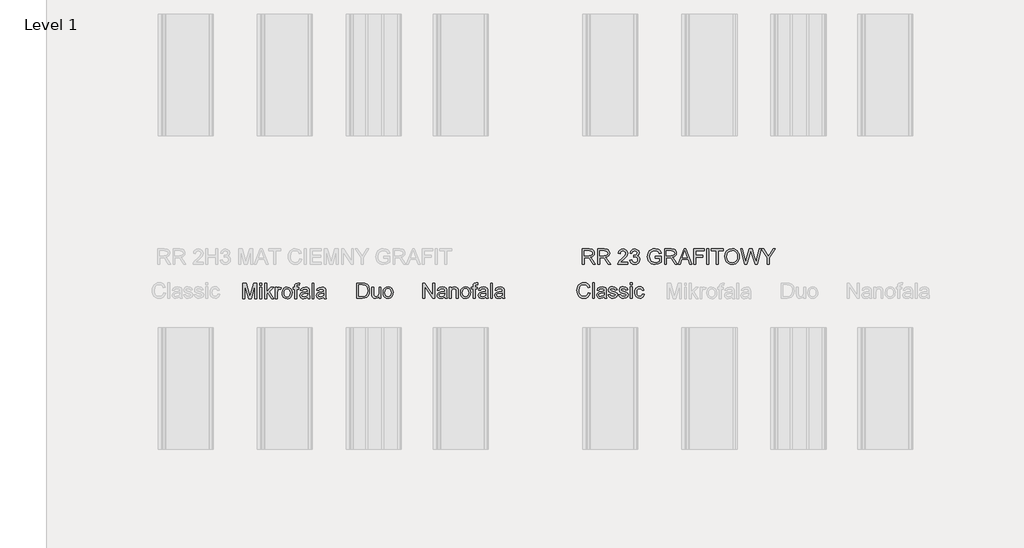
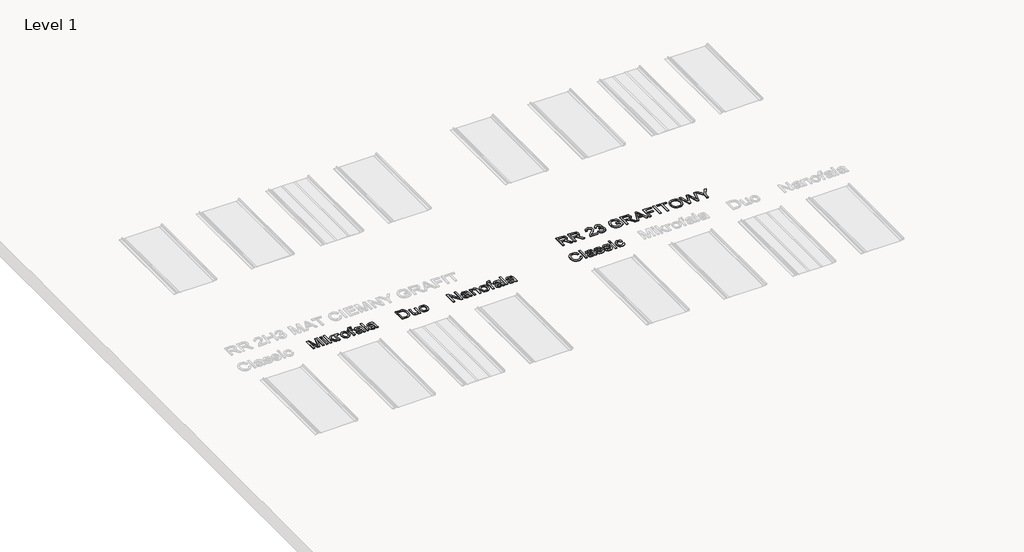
# One storey, part 12 of 22: 5 proxies.
"""IFC4 building model written with IfcOpenShell, lengths in millimetres."""

from ifc_helpers import new_model, si_unit, frame, origin, place, context, project, spatial, polyline, outline, extrude, element, save

model = new_model("IFC4")

# Units and contexts
model_context = context("Model", 3, world=origin())
ifc_project = project(units=[si_unit("LENGTHUNIT", "METRE", prefix="MILLI")], contexts=[model_context])

# Site, building, storey
site = spatial("IfcSite", under=ifc_project)
building = spatial("IfcBuilding", under=site)
storey = spatial("IfcBuildingStorey", under=building, Name="Level 1", Elevation=0.0)

# Proxies
placement = place(None, origin())
element("IfcBuildingElementProxy", 1, Name="150", ObjectType="150", at=placement, inside=storey, context=model_context, shape_type="SweptSolid", body=[
    extrude(outline(polyline([(-7895.6654959, -1975.281387), (-7895.6654959, -1824.5969218), (-7863.3654568, -1824.5969218), (-7832.4633692, -1930.8044538), (-7826.2093753, -1952.9877381), (-7819.4771347, -1928.9650438), (-7789.1636583, -1824.5969218), (-7756.7532546, -1824.5969218), (-7756.7532546, -1975.281387), (-7775.5888127, -1975.281387), (-7775.5888127, -1843.4324799), (-7813.44387, -1975.281387), (-7838.9380923, -1975.281387), (-7876.8299378, -1843.4324799), (-7876.8299378, -1975.281387), (-7895.6654959, -1975.281387)])), frame((0.0, 0.0, 600.0), z_axis=(0.0, 0.0, 1.0), x_axis=(1.0, 0.0, 0.0)), (0.0, 0.0, 1.0), 10.0),
    extrude(outline(polyline([(-7726.1454726, -1843.4324799), (-7726.1454726, -1824.5969218), (-7707.3099144, -1824.5969218), (-7707.3099144, -1843.4324799), (-7726.1454726, -1843.4324799)])), frame((0.0, 0.0, 600.0), z_axis=(0.0, 0.0, 1.0), x_axis=(1.0, 0.0, 0.0)), (0.0, 0.0, 1.0), 10.0),
    extrude(outline(polyline([(-7726.1454726, -1975.281387), (-7726.1454726, -1864.6224829), (-7707.3099144, -1864.6224829), (-7707.3099144, -1975.281387), (-7726.1454726, -1975.281387)])), frame((0.0, 0.0, 600.0), z_axis=(0.0, 0.0, 1.0), x_axis=(1.0, 0.0, 0.0)), (0.0, 0.0, 1.0), 10.0),
    extrude(outline(polyline([(-7679.0565772, -1975.281387), (-7679.0565772, -1824.5969218), (-7660.221019, -1824.5969218), (-7660.221019, -1905.5677489), (-7617.988166, -1864.6224829), (-7591.9421207, -1864.6224829), (-7634.7267968, -1906.0827837), (-7589.587676, -1975.281387), (-7611.5870193, -1975.281387), (-7648.228066, -1919.1793827), (-7660.221019, -1930.841242), (-7660.221019, -1975.281387), (-7679.0565772, -1975.281387)])), frame((0.0, 0.0, 600.0), z_axis=(0.0, 0.0, 1.0), x_axis=(1.0, 0.0, 0.0)), (0.0, 0.0, 1.0), 10.0),
    extrude(outline(polyline([(-7573.1065626, -1975.281387), (-7573.1065626, -1864.6224829), (-7556.6254492, -1864.6224829), (-7556.6254492, -1880.9932316), (-7544.9268017, -1865.9100698), (-7533.1545779, -1862.2680381), (-7514.2454433, -1868.0805736), (-7520.5362255, -1884.9663572), (-7533.7799773, -1881.1035962), (-7544.4301611, -1884.8192044), (-7551.2175839, -1895.1199003), (-7554.2710044, -1917.1192436), (-7554.2710044, -1975.281387), (-7573.1065626, -1975.281387)])), frame((0.0, 0.0, 600.0), z_axis=(0.0, 0.0, 1.0), x_axis=(1.0, 0.0, 0.0)), (0.0, 0.0, 1.0), 10.0),
    extrude(outline(polyline([(-7507.182109, -1919.9519349), (-7503.1078159, -1893.2712932), (-7490.8849367, -1874.5185085), (-7475.7833808, -1865.3306557), (-7457.7019807, -1862.2680381), (-7437.9145279, -1865.9974418), (-7422.1093977, -1877.185653), (-7411.748921, -1894.9497548), (-7408.2954287, -1918.4068306), (-7409.822139, -1937.4355268), (-7414.4022699, -1951.9208803), (-7421.902464, -1962.7688007), (-7432.1893643, -1970.8851972), (-7444.4076451, -1975.9481731), (-7457.7019807, -1977.6358318), (-7477.7285568, -1973.9202236), (-7493.5152929, -1962.7733992), (-7503.765405, -1944.6368168), (-7507.182109, -1919.9519349)]), holes=[polyline([(-7488.3465509, -1919.9151467), (-7486.1668501, -1936.9618787), (-7479.6277476, -1949.1065831), (-7469.7869042, -1956.376851), (-7457.7019807, -1958.8002736), (-7445.6722394, -1956.3630554), (-7435.8497902, -1949.0514008), (-7429.3106877, -1936.745748), (-7427.1309869, -1919.3265355), (-7429.3244833, -1902.7764443), (-7435.9049725, -1890.7972868), (-7445.7412173, -1883.5270189), (-7457.7019807, -1881.1035962), (-7469.7869042, -1883.5178218), (-7479.6277476, -1890.7604986), (-7486.1668501, -1902.8776118), (-7488.3465509, -1919.9151467)])]), frame((0.0, 0.0, 600.0), z_axis=(0.0, 0.0, 1.0), x_axis=(1.0, 0.0, 0.0)), (0.0, 0.0, 1.0), 10.0),
    extrude(outline(polyline([(-7382.3965363, -1975.281387), (-7382.3965363, -1883.458041), (-7398.8776497, -1883.458041), (-7398.8776497, -1864.6224829), (-7382.3965363, -1864.6224829), (-7382.3965363, -1853.4756584), (-7380.4099735, -1837.7670972), (-7370.7714652, -1826.5466964), (-7351.7887543, -1822.242477), (-7334.6086651, -1824.3026162), (-7337.3677801, -1841.960952), (-7348.2202989, -1841.0780352), (-7360.0844933, -1844.2050321), (-7363.5609781, -1855.8668914), (-7363.5609781, -1864.6224829), (-7342.3709752, -1864.6224829), (-7342.3709752, -1883.458041), (-7363.5609781, -1883.458041), (-7363.5609781, -1975.281387), (-7382.3965363, -1975.281387)])), frame((0.0, 0.0, 600.0), z_axis=(0.0, 0.0, 1.0), x_axis=(1.0, 0.0, 0.0)), (0.0, 0.0, 1.0), 10.0),
    extrude(outline(polyline([(-7255.2565187, -1961.1547184), (-7273.5218598, -1973.9202236), (-7293.7001872, -1977.6358318), (-7309.4409381, -1975.4009487), (-7321.0522136, -1968.6962993), (-7328.2121169, -1958.5151651), (-7330.5987514, -1945.8508274), (-7326.9935078, -1930.9516066), (-7317.5205464, -1920.1358759), (-7304.3319769, -1913.9554584), (-7288.0348045, -1911.1227671), (-7255.3668833, -1904.6480439), (-7255.2565187, -1900.4541892), (-7256.5533028, -1892.0480856), (-7260.4436549, -1886.5482498), (-7269.1440641, -1882.4647596), (-7281.2657758, -1881.1035962), (-7300.3220632, -1884.7272339), (-7309.4087484, -1897.5847096), (-7328.2443066, -1895.2302649), (-7320.0957204, -1876.8361651), (-7303.6881834, -1866.0572226), (-7278.8377546, -1862.2680381), (-7256.0106768, -1865.6157643), (-7243.1164129, -1874.0218678), (-7237.3406656, -1886.8057672), (-7236.4209606, -1903.2868806), (-7236.4209606, -1926.7209636), (-7235.4644674, -1959.4440671), (-7231.7120711, -1975.281387), (-7250.5476292, -1975.281387), (-7255.2565187, -1961.1547184)]), holes=[polyline([(-7255.2565187, -1923.4836021), (-7285.6435715, -1929.2593494), (-7301.8487734, -1932.31277), (-7309.1880192, -1937.2791769), (-7311.7631932, -1944.5264522), (-7306.1529928, -1954.7167835), (-7289.6902735, -1958.8002736), (-7270.6339861, -1954.2937192), (-7258.3467275, -1943.386018), (-7255.3668833, -1928.817891), (-7255.2565187, -1923.4836021)])]), frame((0.0, 0.0, 600.0), z_axis=(0.0, 0.0, 1.0), x_axis=(1.0, 0.0, 0.0)), (0.0, 0.0, 1.0), 10.0),
    extrude(outline(polyline([(-7210.5220681, -1975.281387), (-7210.5220681, -1824.5969218), (-7191.68651, -1824.5969218), (-7191.68651, -1975.281387), (-7210.5220681, -1975.281387)])), frame((0.0, 0.0, 600.0), z_axis=(0.0, 0.0, 1.0), x_axis=(1.0, 0.0, 0.0)), (0.0, 0.0, 1.0), 10.0),
    extrude(outline(polyline([(-7092.7998297, -1961.1547184), (-7111.0651707, -1973.9202236), (-7131.2434982, -1977.6358318), (-7146.984249, -1975.4009487), (-7158.5955245, -1968.6962993), (-7165.7554278, -1958.5151651), (-7168.1420623, -1945.8508274), (-7164.5368187, -1930.9516066), (-7155.0638574, -1920.1358759), (-7141.8752878, -1913.9554584), (-7125.5781154, -1911.1227671), (-7092.9101943, -1904.6480439), (-7092.7998297, -1900.4541892), (-7094.0966137, -1892.0480856), (-7097.9869658, -1886.5482498), (-7106.687375, -1882.4647596), (-7118.8090867, -1881.1035962), (-7137.8653741, -1884.7272339), (-7146.9520594, -1897.5847096), (-7165.7876175, -1895.2302649), (-7157.6390313, -1876.8361651), (-7141.2314943, -1866.0572226), (-7116.3810656, -1862.2680381), (-7093.5539878, -1865.6157643), (-7080.6597238, -1874.0218678), (-7074.8839765, -1886.8057672), (-7073.9642715, -1903.2868806), (-7073.9642715, -1926.7209636), (-7073.0077783, -1959.4440671), (-7069.255382, -1975.281387), (-7088.0909401, -1975.281387), (-7092.7998297, -1961.1547184)]), holes=[polyline([(-7092.7998297, -1923.4836021), (-7123.1868825, -1929.2593494), (-7139.3920844, -1932.31277), (-7146.7313302, -1937.2791769), (-7149.3065041, -1944.5264522), (-7143.6963037, -1954.7167835), (-7127.2335844, -1958.8002736), (-7108.1772971, -1954.2937192), (-7095.8900384, -1943.386018), (-7092.9101943, -1928.817891), (-7092.7998297, -1923.4836021)])]), frame((0.0, 0.0, 600.0), z_axis=(0.0, 0.0, 1.0), x_axis=(1.0, 0.0, 0.0)), (0.0, 0.0, 1.0), 10.0),
])
element("IfcBuildingElementProxy", 2, Name="150", ObjectType="150", at=placement, inside=storey, context=model_context, shape_type="SweptSolid", body=[
    extrude(outline(polyline([(-6767.5807075, -1972.1592468), (-6767.5807075, -1821.4747816), (-6715.5989816, -1821.4747816), (-6688.7068077, -1823.6452853), (-6666.5603116, -1834.4242278), (-6656.1400541, -1845.902146), (-6648.7180349, -1860.1759675), (-6644.2758598, -1876.9697805), (-6642.7951347, -1896.0076738), (-6646.8050485, -1926.4131207), (-6657.1057443, -1948.3572817), (-6670.864531, -1962.0240978), (-6688.8723546, -1969.5840728), (-6713.097384, -1972.1592468), (-6767.5807075, -1972.1592468)]), holes=[polyline([(-6748.7451493, -1953.3236886), (-6715.4150406, -1953.3236886), (-6691.1716171, -1950.6013619), (-6677.1921013, -1942.9126282), (-6665.7325771, -1924.2058287), (-6661.6306929, -1895.7133682), (-6663.6402483, -1875.1855529), (-6669.6689145, -1860.0288147), (-6678.5762573, -1849.6177542), (-6689.2218425, -1843.3269721), (-6715.9300754, -1840.3103397), (-6748.7451493, -1840.3103397), (-6748.7451493, -1953.3236886)])]), frame((0.0, 0.0, 600.0), z_axis=(0.0, 0.0, 1.0), x_axis=(1.0, 0.0, 0.0)), (0.0, 0.0, 1.0), 10.0),
    extrude(outline(polyline([(-6548.617344, -1972.1592468), (-6548.617344, -1953.1397476), (-6563.369412, -1969.1702056), (-6582.6096403, -1974.5136916), (-6600.3231584, -1970.7612952), (-6612.5368406, -1961.3435161), (-6618.1470411, -1947.4743649), (-6619.250687, -1929.9631819), (-6619.250687, -1861.5003426), (-6600.4151289, -1861.5003426), (-6600.4151289, -1921.0972259), (-6599.2746947, -1940.300666), (-6591.8250843, -1951.5762492), (-6577.7903862, -1955.6781334), (-6562.0634309, -1951.4842787), (-6551.6707645, -1940.0615427), (-6548.617344, -1919.0738749), (-6548.617344, -1861.5003426), (-6529.7817858, -1861.5003426), (-6529.7817858, -1972.1592468), (-6548.617344, -1972.1592468)])), frame((0.0, 0.0, 600.0), z_axis=(0.0, 0.0, 1.0), x_axis=(1.0, 0.0, 0.0)), (0.0, 0.0, 1.0), 10.0),
    extrude(outline(polyline([(-6508.5917829, -1916.8297947), (-6504.5174898, -1890.149153), (-6492.2946105, -1871.3963683), (-6477.1930546, -1862.2085155), (-6459.1116545, -1859.1458979), (-6439.3242017, -1862.8753016), (-6423.5190715, -1874.0635128), (-6413.1585948, -1891.8276146), (-6409.7051026, -1915.2846903), (-6411.2318129, -1934.3133865), (-6415.8119437, -1948.7987401), (-6423.3121379, -1959.6466604), (-6433.5990382, -1967.7630569), (-6445.8173189, -1972.8260329), (-6459.1116545, -1974.5136916), (-6479.1382307, -1970.7980834), (-6494.9249668, -1959.651259), (-6505.1750789, -1941.5146766), (-6508.5917829, -1916.8297947)]), holes=[polyline([(-6489.7562247, -1916.7930065), (-6487.5765239, -1933.8397385), (-6481.0374215, -1945.9844428), (-6471.1965781, -1953.2547108), (-6459.1116545, -1955.6781334), (-6447.0819133, -1953.2409152), (-6437.259464, -1945.9292605), (-6430.7203616, -1933.6236078), (-6428.5406607, -1916.2043953), (-6430.7341571, -1899.6543041), (-6437.3146463, -1887.6751466), (-6447.1508912, -1880.4048787), (-6459.1116545, -1877.981456), (-6471.1965781, -1880.3956816), (-6481.0374215, -1887.6383584), (-6487.5765239, -1899.7554716), (-6489.7562247, -1916.7930065)])]), frame((0.0, 0.0, 600.0), z_axis=(0.0, 0.0, 1.0), x_axis=(1.0, 0.0, 0.0)), (0.0, 0.0, 1.0), 10.0),
])
element("IfcBuildingElementProxy", 3, Name="150", ObjectType="150", at=placement, inside=storey, context=model_context, shape_type="SweptSolid", body=[
    extrude(outline(polyline([(-4479.0085992, -1917.1818641), (-4460.1730411, -1922.0379064), (-4468.8642532, -1943.986666), (-4482.5034782, -1960.0217224), (-4500.4193314, -1969.8303761), (-4521.9404281, -1973.0999274), (-4543.7880201, -1970.6259209), (-4561.1382547, -1963.2039017), (-4574.4371888, -1951.091387), (-4584.1308794, -1934.5458943), (-4590.049181, -1915.0941338), (-4592.0219482, -1894.2628158), (-4589.7916636, -1872.2910636), (-4583.1008098, -1853.3175497), (-4572.2988747, -1837.9446809), (-4557.7353462, -1826.7748638), (-4540.4632865, -1819.9736454), (-4521.5357579, -1817.7065726), (-4500.8837824, -1820.6404315), (-4483.8094593, -1829.4420082), (-4470.8462175, -1843.5686769), (-4462.5274859, -1862.4778114), (-4481.363044, -1866.9659718), (-4487.8929494, -1853.2301778), (-4496.8140878, -1843.8078002), (-4508.2368238, -1838.3585481), (-4522.2715219, -1836.5421308), (-4538.4491326, -1838.5562847), (-4551.7388697, -1844.5987464), (-4561.8234349, -1854.0349196), (-4568.38553, -1866.2302078), (-4573.18639, -1894.2260276), (-4571.7654458, -1911.626846), (-4567.5026132, -1926.6732196), (-4560.2369438, -1938.7903328), (-4549.8074892, -1947.40337), (-4537.3040999, -1952.5491194), (-4523.8166263, -1954.2643692), (-4508.0942695, -1951.9283185), (-4494.9930719, -1944.9201665), (-4485.1016448, -1933.3134896), (-4479.0085992, -1917.1818641)])), frame((0.0, 0.0, 600.0), z_axis=(0.0, 0.0, 1.0), x_axis=(1.0, 0.0, 0.0)), (0.0, 0.0, 1.0), 10.0),
    extrude(outline(polyline([(-4436.6285934, -1970.7454826), (-4436.6285934, -1820.0610174), (-4417.7930352, -1820.0610174), (-4417.7930352, -1970.7454826), (-4436.6285934, -1970.7454826)])), frame((0.0, 0.0, 600.0), z_axis=(0.0, 0.0, 1.0), x_axis=(1.0, 0.0, 0.0)), (0.0, 0.0, 1.0), 10.0),
    extrude(outline(polyline([(-4318.9063549, -1956.618814), (-4337.171696, -1969.3843192), (-4357.3500234, -1973.0999274), (-4373.0907743, -1970.8650442), (-4384.7020498, -1964.1603949), (-4391.8619531, -1953.9792607), (-4394.2485875, -1941.314923), (-4390.643344, -1926.4157022), (-4381.1703826, -1915.5999715), (-4367.9818131, -1909.419554), (-4351.6846407, -1906.5868626), (-4319.0167195, -1900.1121395), (-4318.9063549, -1895.9182848), (-4320.203139, -1887.5121812), (-4324.0934911, -1882.0123454), (-4332.7939003, -1877.9288552), (-4344.915612, -1876.5676918), (-4363.9718993, -1880.1913295), (-4373.0585846, -1893.0488052), (-4391.8941428, -1890.6943604), (-4383.7455566, -1872.3002607), (-4367.3380196, -1861.5213182), (-4342.4875908, -1857.7321337), (-4319.660513, -1861.0798598), (-4306.7662491, -1869.4859634), (-4300.9905018, -1882.2698628), (-4300.0707968, -1898.7509761), (-4300.0707968, -1922.1850592), (-4299.1143036, -1954.9081627), (-4295.3619072, -1970.7454826), (-4314.1974654, -1970.7454826), (-4318.9063549, -1956.618814)]), holes=[polyline([(-4318.9063549, -1918.9476977), (-4349.2934077, -1924.723445), (-4365.4986096, -1927.7768656), (-4372.8378554, -1932.7432725), (-4375.4130294, -1939.9905478), (-4369.802829, -1950.1808791), (-4353.3401097, -1954.2643692), (-4334.2838223, -1949.7578148), (-4321.9965637, -1938.8501136), (-4319.0167195, -1924.2819866), (-4318.9063549, -1918.9476977)])]), frame((0.0, 0.0, 600.0), z_axis=(0.0, 0.0, 1.0), x_axis=(1.0, 0.0, 0.0)), (0.0, 0.0, 1.0), 10.0),
    extrude(outline(polyline([(-4281.2352386, -1937.7832558), (-4262.3996805, -1935.4288111), (-4259.4290334, -1943.4854268), (-4253.6808772, -1949.4083269), (-4233.7048849, -1954.2643692), (-4214.5014447, -1949.8129971), (-4208.2474508, -1939.3651484), (-4209.8201463, -1934.5642884), (-4214.5382329, -1930.9038625), (-4233.9256141, -1925.5327854), (-4262.2893159, -1916.3173414), (-4274.668545, -1905.5567931), (-4278.8807939, -1890.3632666), (-4275.4962795, -1876.3285685), (-4266.2624414, -1865.6048084), (-4254.2878825, -1860.0313961), (-4238.0826806, -1857.7321337), (-4215.1636323, -1861.4293477), (-4200.5955053, -1871.435738), (-4194.1207822, -1888.3399157), (-4212.9563403, -1890.6943604), (-4220.0380687, -1880.3016941), (-4236.6111526, -1876.5676918), (-4254.6373704, -1880.1361472), (-4260.0452357, -1888.4502803), (-4257.8011555, -1893.931722), (-4250.7746094, -1898.0887885), (-4234.5510134, -1902.0987023), (-4206.9046815, -1910.9646584), (-4194.0655999, -1921.0078368), (-4189.4118926, -1937.3785856), (-4194.8749403, -1955.4048034), (-4210.6386838, -1968.4830083), (-4233.9624023, -1973.0999274), (-4252.9543103, -1970.8742413), (-4266.8142644, -1964.1971831), (-4276.0664966, -1953.1423291), (-4281.2352386, -1937.7832558)])), frame((0.0, 0.0, 600.0), z_axis=(0.0, 0.0, 1.0), x_axis=(1.0, 0.0, 0.0)), (0.0, 0.0, 1.0), 10.0),
    extrude(outline(polyline([(-4175.285224, -1937.7832558), (-4156.4496659, -1935.4288111), (-4153.4790188, -1943.4854268), (-4147.7308626, -1949.4083269), (-4127.7548702, -1954.2643692), (-4108.5514301, -1949.8129971), (-4102.2974362, -1939.3651484), (-4103.8701317, -1934.5642884), (-4108.5882183, -1930.9038625), (-4127.9755994, -1925.5327854), (-4156.3393013, -1916.3173414), (-4168.7185304, -1905.5567931), (-4172.9307793, -1890.3632666), (-4169.5462649, -1876.3285685), (-4160.3124268, -1865.6048084), (-4148.3378679, -1860.0313961), (-4132.132666, -1857.7321337), (-4109.2136177, -1861.4293477), (-4094.6454907, -1871.435738), (-4088.1707676, -1888.3399157), (-4107.0063257, -1890.6943604), (-4114.0880541, -1880.3016941), (-4130.661138, -1876.5676918), (-4148.6873558, -1880.1361472), (-4154.0952211, -1888.4502803), (-4151.8511409, -1893.931722), (-4144.8245948, -1898.0887885), (-4128.6009988, -1902.0987023), (-4100.9546669, -1910.9646584), (-4088.1155853, -1921.0078368), (-4083.461878, -1937.3785856), (-4088.9249257, -1955.4048034), (-4104.6886691, -1968.4830083), (-4128.0123876, -1973.0999274), (-4147.0042956, -1970.8742413), (-4160.8642498, -1964.1971831), (-4170.116482, -1953.1423291), (-4175.285224, -1937.7832558)])), frame((0.0, 0.0, 600.0), z_axis=(0.0, 0.0, 1.0), x_axis=(1.0, 0.0, 0.0)), (0.0, 0.0, 1.0), 10.0),
    extrude(outline(polyline([(-4062.2718751, -1838.8965755), (-4062.2718751, -1820.0610174), (-4043.4363169, -1820.0610174), (-4043.4363169, -1838.8965755), (-4062.2718751, -1838.8965755)])), frame((0.0, 0.0, 600.0), z_axis=(0.0, 0.0, 1.0), x_axis=(1.0, 0.0, 0.0)), (0.0, 0.0, 1.0), 10.0),
    extrude(outline(polyline([(-4062.2718751, -1970.7454826), (-4062.2718751, -1860.0865784), (-4043.4363169, -1860.0865784), (-4043.4363169, -1970.7454826), (-4062.2718751, -1970.7454826)])), frame((0.0, 0.0, 600.0), z_axis=(0.0, 0.0, 1.0), x_axis=(1.0, 0.0, 0.0)), (0.0, 0.0, 1.0), 10.0),
    extrude(outline(polyline([(-3944.5496366, -1930.7199215), (-3925.7140785, -1933.0743663), (-3930.965594, -1949.8267926), (-3940.8340285, -1962.4865318), (-3954.39048, -1970.4465785), (-3970.7060465, -1973.0999274), (-3990.7418197, -1969.3981148), (-4006.4089941, -1958.2926771), (-4016.5211505, -1940.2710578), (-4019.8918693, -1915.8207007), (-4018.452531, -1899.0590773), (-4014.134516, -1884.532337), (-4006.8688466, -1872.8014999), (-3996.5865449, -1864.427586), (-3984.2854906, -1859.4059968), (-3970.9635639, -1857.7321337), (-3955.0480691, -1860.0313961), (-3942.3239506, -1866.9291836), (-3933.1958786, -1878.0576139), (-3928.0685233, -1893.0488052), (-3946.9040814, -1895.40325), (-3955.6412788, -1881.2949755), (-3970.8164111, -1876.5676918), (-3982.9887066, -1878.8945454), (-3992.6502075, -1885.8751063), (-3998.9547852, -1897.8864535), (-4001.0563111, -1915.3056659), (-3999.0007705, -1932.9594032), (-3992.8341485, -1945.012137), (-3983.3473916, -1951.9513112), (-3971.3314459, -1954.2643692), (-3961.5779745, -1952.8204324), (-3953.5811396, -1948.4886219), (-3947.7640056, -1941.1585731), (-3944.5496366, -1930.7199215)])), frame((0.0, 0.0, 600.0), z_axis=(0.0, 0.0, 1.0), x_axis=(1.0, 0.0, 0.0)), (0.0, 0.0, 1.0), 10.0),
])
element("IfcBuildingElementProxy", 4, Name="150", ObjectType="150", at=placement, inside=storey, context=model_context, shape_type="SweptSolid", body=[
    extrude(outline(polyline([(-6116.7806572, -1972.1592468), (-6116.7806572, -1821.4747816), (-6096.6207239, -1821.4747816), (-6017.8939769, -1940.852489), (-6017.8939769, -1821.4747816), (-5999.0584188, -1821.4747816), (-5999.0584188, -1972.1592468), (-6019.2183521, -1972.1592468), (-6097.9450991, -1852.7447512), (-6097.9450991, -1972.1592468), (-6116.7806572, -1972.1592468)])), frame((0.0, 0.0, 600.0), z_axis=(0.0, 0.0, 1.0), x_axis=(1.0, 0.0, 0.0)), (0.0, 0.0, 1.0), 10.0),
    extrude(outline(polyline([(-5897.8172937, -1958.0325782), (-5916.0826347, -1970.7980834), (-5936.2609622, -1974.5136916), (-5952.001713, -1972.2788084), (-5963.6129885, -1965.5741591), (-5970.7728919, -1955.3930249), (-5973.1595263, -1942.7286872), (-5969.5542827, -1927.8294664), (-5960.0813214, -1917.0137357), (-5946.8927518, -1910.8333182), (-5930.5955795, -1908.0006268), (-5897.9276583, -1901.5259037), (-5897.8172937, -1897.332049), (-5899.1140777, -1888.9259454), (-5903.0044298, -1883.4261096), (-5911.704839, -1879.3426194), (-5923.8265507, -1877.981456), (-5942.8828381, -1881.6050937), (-5951.9695234, -1894.4625694), (-5970.8050815, -1892.1081246), (-5962.6564953, -1873.7140249), (-5946.2489583, -1862.9350824), (-5921.3985296, -1859.1458979), (-5898.5714518, -1862.493624), (-5885.6771878, -1870.8997276), (-5879.9014405, -1883.683627), (-5878.9817355, -1900.1647403), (-5878.9817355, -1923.5988234), (-5878.0252423, -1956.3219269), (-5874.272846, -1972.1592468), (-5893.1084041, -1972.1592468), (-5897.8172937, -1958.0325782)]), holes=[polyline([(-5897.8172937, -1920.3614619), (-5928.2043465, -1926.1372092), (-5944.4095484, -1929.1906298), (-5951.7487942, -1934.1570367), (-5954.3239681, -1941.404312), (-5948.7137677, -1951.5946433), (-5932.2510484, -1955.6781334), (-5913.1947611, -1951.171579), (-5900.9075024, -1940.2638778), (-5897.9276583, -1925.6957508), (-5897.8172937, -1920.3614619)])]), frame((0.0, 0.0, 600.0), z_axis=(0.0, 0.0, 1.0), x_axis=(1.0, 0.0, 0.0)), (0.0, 0.0, 1.0), 10.0),
    extrude(outline(polyline([(-5853.0828431, -1972.1592468), (-5853.0828431, -1861.5003426), (-5834.2472849, -1861.5003426), (-5834.2472849, -1876.9513864), (-5819.8447048, -1863.59727), (-5800.1814122, -1859.1458979), (-5782.3943177, -1862.7327473), (-5770.2542119, -1872.1505264), (-5764.6072232, -1886.0012835), (-5763.6139418, -1904.2114423), (-5763.6139418, -1972.1592468), (-5782.4495, -1972.1592468), (-5782.4495, -1906.749828), (-5784.6200038, -1890.0847737), (-5792.2903434, -1881.2739999), (-5805.2213955, -1877.981456), (-5816.2532568, -1879.8300631), (-5825.6572403, -1885.3758841), (-5832.0997738, -1896.0904472), (-5834.2472849, -1913.4452804), (-5834.2472849, -1972.1592468), (-5853.0828431, -1972.1592468)])), frame((0.0, 0.0, 600.0), z_axis=(0.0, 0.0, 1.0), x_axis=(1.0, 0.0, 0.0)), (0.0, 0.0, 1.0), 10.0),
    extrude(outline(polyline([(-5742.4239389, -1916.8297947), (-5738.3496458, -1890.149153), (-5726.1267665, -1871.3963683), (-5711.0252106, -1862.2085155), (-5692.9438106, -1859.1458979), (-5673.1563578, -1862.8753016), (-5657.3512275, -1874.0635128), (-5646.9907508, -1891.8276146), (-5643.5372586, -1915.2846903), (-5645.0639689, -1934.3133865), (-5649.6440997, -1948.7987401), (-5657.1442939, -1959.6466604), (-5667.4311942, -1967.7630569), (-5679.649475, -1972.8260329), (-5692.9438106, -1974.5136916), (-5712.9703867, -1970.7980834), (-5728.7571228, -1959.651259), (-5739.0072349, -1941.5146766), (-5742.4239389, -1916.8297947)]), holes=[polyline([(-5723.5883808, -1916.7930065), (-5721.4086799, -1933.8397385), (-5714.8695775, -1945.9844428), (-5705.0287341, -1953.2547108), (-5692.9438106, -1955.6781334), (-5680.9140693, -1953.2409152), (-5671.0916201, -1945.9292605), (-5664.5525176, -1933.6236078), (-5662.3728168, -1916.2043953), (-5664.5663132, -1899.6543041), (-5671.1468024, -1887.6751466), (-5680.9830472, -1880.4048787), (-5692.9438106, -1877.981456), (-5705.0287341, -1880.3956816), (-5714.8695775, -1887.6383584), (-5721.4086799, -1899.7554716), (-5723.5883808, -1916.7930065)])]), frame((0.0, 0.0, 600.0), z_axis=(0.0, 0.0, 1.0), x_axis=(1.0, 0.0, 0.0)), (0.0, 0.0, 1.0), 10.0),
    extrude(outline(polyline([(-5617.6383662, -1972.1592468), (-5617.6383662, -1880.3359008), (-5634.1194795, -1880.3359008), (-5634.1194795, -1861.5003426), (-5617.6383662, -1861.5003426), (-5617.6383662, -1850.3535182), (-5615.6518034, -1834.644957), (-5606.0132951, -1823.4245561), (-5587.0305842, -1819.1203368), (-5569.850495, -1821.180476), (-5572.6096099, -1838.8388117), (-5583.4621288, -1837.955895), (-5595.3263231, -1841.0828919), (-5598.802808, -1852.7447512), (-5598.802808, -1861.5003426), (-5577.6128051, -1861.5003426), (-5577.6128051, -1880.3359008), (-5598.802808, -1880.3359008), (-5598.802808, -1972.1592468), (-5617.6383662, -1972.1592468)])), frame((0.0, 0.0, 600.0), z_axis=(0.0, 0.0, 1.0), x_axis=(1.0, 0.0, 0.0)), (0.0, 0.0, 1.0), 10.0),
    extrude(outline(polyline([(-5490.4983486, -1958.0325782), (-5508.7636897, -1970.7980834), (-5528.9420171, -1974.5136916), (-5544.682768, -1972.2788084), (-5556.2940435, -1965.5741591), (-5563.4539468, -1955.3930249), (-5565.8405812, -1942.7286872), (-5562.2353377, -1927.8294664), (-5552.7623763, -1917.0137357), (-5539.5738068, -1910.8333182), (-5523.2766344, -1908.0006268), (-5490.6087132, -1901.5259037), (-5490.4983486, -1897.332049), (-5491.7951327, -1888.9259454), (-5495.6854848, -1883.4261096), (-5504.3858939, -1879.3426194), (-5516.5076057, -1877.981456), (-5535.563893, -1881.6050937), (-5544.6505783, -1894.4625694), (-5563.4861365, -1892.1081246), (-5555.3375503, -1873.7140249), (-5538.9300133, -1862.9350824), (-5514.0795845, -1859.1458979), (-5491.2525067, -1862.493624), (-5478.3582428, -1870.8997276), (-5472.5824955, -1883.683627), (-5471.6627905, -1900.1647403), (-5471.6627905, -1923.5988234), (-5470.7062973, -1956.3219269), (-5466.9539009, -1972.1592468), (-5485.7894591, -1972.1592468), (-5490.4983486, -1958.0325782)]), holes=[polyline([(-5490.4983486, -1920.3614619), (-5520.8854014, -1926.1372092), (-5537.0906033, -1929.1906298), (-5544.4298491, -1934.1570367), (-5547.0050231, -1941.404312), (-5541.3948227, -1951.5946433), (-5524.9321034, -1955.6781334), (-5505.875816, -1951.171579), (-5493.5885574, -1940.2638778), (-5490.6087132, -1925.6957508), (-5490.4983486, -1920.3614619)])]), frame((0.0, 0.0, 600.0), z_axis=(0.0, 0.0, 1.0), x_axis=(1.0, 0.0, 0.0)), (0.0, 0.0, 1.0), 10.0),
    extrude(outline(polyline([(-5445.763898, -1972.1592468), (-5445.763898, -1821.4747816), (-5426.9283399, -1821.4747816), (-5426.9283399, -1972.1592468), (-5445.763898, -1972.1592468)])), frame((0.0, 0.0, 600.0), z_axis=(0.0, 0.0, 1.0), x_axis=(1.0, 0.0, 0.0)), (0.0, 0.0, 1.0), 10.0),
    extrude(outline(polyline([(-5328.0416596, -1958.0325782), (-5346.3070006, -1970.7980834), (-5366.485328, -1974.5136916), (-5382.2260789, -1972.2788084), (-5393.8373544, -1965.5741591), (-5400.9972577, -1955.3930249), (-5403.3838922, -1942.7286872), (-5399.7786486, -1927.8294664), (-5390.3056872, -1917.0137357), (-5377.1171177, -1910.8333182), (-5360.8199453, -1908.0006268), (-5328.1520242, -1901.5259037), (-5328.0416596, -1897.332049), (-5329.3384436, -1888.9259454), (-5333.2287957, -1883.4261096), (-5341.9292049, -1879.3426194), (-5354.0509166, -1877.981456), (-5373.107204, -1881.6050937), (-5382.1938892, -1894.4625694), (-5401.0294474, -1892.1081246), (-5392.8808612, -1873.7140249), (-5376.4733242, -1862.9350824), (-5351.6228954, -1859.1458979), (-5328.7958176, -1862.493624), (-5315.9015537, -1870.8997276), (-5310.1258064, -1883.683627), (-5309.2061014, -1900.1647403), (-5309.2061014, -1923.5988234), (-5308.2496082, -1956.3219269), (-5304.4972119, -1972.1592468), (-5323.33277, -1972.1592468), (-5328.0416596, -1958.0325782)]), holes=[polyline([(-5328.0416596, -1920.3614619), (-5358.4287124, -1926.1372092), (-5374.6339142, -1929.1906298), (-5381.97316, -1934.1570367), (-5384.548334, -1941.404312), (-5378.9381336, -1951.5946433), (-5362.4754143, -1955.6781334), (-5343.419127, -1951.171579), (-5331.1318683, -1940.2638778), (-5328.1520242, -1925.6957508), (-5328.0416596, -1920.3614619)])]), frame((0.0, 0.0, 600.0), z_axis=(0.0, 0.0, 1.0), x_axis=(1.0, 0.0, 0.0)), (0.0, 0.0, 1.0), 10.0),
])
element("IfcBuildingElementProxy", 5, Name="150 Blue", ObjectType="150 Blue", at=placement, inside=storey, context=model_context, shape_type="SweptSolid", body=[
    extrude(outline(polyline([(-4536.4118342, -1635.6514112), (-4536.4118342, -1484.966946), (-4471.4806621, -1484.966946), (-4441.3327325, -1489.032042), (-4432.0529092, -1494.6606365), (-4424.8516192, -1503.416228), (-4420.2301016, -1514.2733454), (-4418.6895957, -1526.2065176), (-4421.2417771, -1541.0505561), (-4428.8983211, -1553.3562089), (-4441.8891541, -1562.3785148), (-4460.4442022, -1567.3725129), (-4449.7388361, -1575.4291286), (-4434.4717333, -1594.8165097), (-4409.3453931, -1635.6514112), (-4431.2343718, -1635.6514112), (-4450.8424821, -1604.4182298), (-4465.0059389, -1583.7432617), (-4474.9571469, -1573.9759947), (-4483.9150735, -1570.3891452), (-4494.8411687, -1569.7269577), (-4517.576276, -1569.7269577), (-4517.576276, -1635.6514112), (-4536.4118342, -1635.6514112)]), holes=[polyline([(-4517.576276, -1550.8913995), (-4475.4169994, -1550.8913995), (-4453.9142968, -1548.224255), (-4441.7006145, -1539.6893927), (-4437.5251539, -1526.9054934), (-4439.5163152, -1517.7176406), (-4445.4897991, -1510.3140154), (-4455.7675023, -1505.4303819), (-4470.6713217, -1503.8025041), (-4517.576276, -1503.8025041), (-4517.576276, -1550.8913995)])]), frame((0.0, 0.0, 600.0), z_axis=(0.0, 0.0, 1.0), x_axis=(1.0, 0.0, 0.0)), (0.0, 0.0, 1.0), 10.0),
    extrude(outline(polyline([(-4385.727369, -1635.6514112), (-4385.727369, -1484.966946), (-4320.7961968, -1484.966946), (-4290.6482673, -1489.032042), (-4281.368444, -1494.6606365), (-4274.1671539, -1503.416228), (-4269.5456364, -1514.2733454), (-4268.0051305, -1526.2065176), (-4270.5573119, -1541.0505561), (-4278.2138559, -1553.3562089), (-4291.2046888, -1562.3785148), (-4309.759737, -1567.3725129), (-4299.0543709, -1575.4291286), (-4283.7872681, -1594.8165097), (-4258.6609278, -1635.6514112), (-4280.5499066, -1635.6514112), (-4300.1580169, -1604.4182298), (-4314.3214737, -1583.7432617), (-4324.2726817, -1573.9759947), (-4333.2306083, -1570.3891452), (-4344.1567035, -1569.7269577), (-4366.8918108, -1569.7269577), (-4366.8918108, -1635.6514112), (-4385.727369, -1635.6514112)]), holes=[polyline([(-4366.8918108, -1550.8913995), (-4324.7325342, -1550.8913995), (-4303.2298316, -1548.224255), (-4291.0161493, -1539.6893927), (-4286.8406887, -1526.9054934), (-4288.83185, -1517.7176406), (-4294.8053339, -1510.3140154), (-4305.0830371, -1505.4303819), (-4319.9868564, -1503.8025041), (-4366.8918108, -1503.8025041), (-4366.8918108, -1550.8913995)])]), frame((0.0, 0.0, 600.0), z_axis=(0.0, 0.0, 1.0), x_axis=(1.0, 0.0, 0.0)), (0.0, 0.0, 1.0), 10.0),
    extrude(outline(polyline([(-4086.7128833, -1616.815853), (-4086.7128833, -1635.6514112), (-4185.5995636, -1635.6514112), (-4183.5762126, -1622.6651768), (-4172.1166885, -1602.6707903), (-4148.5170585, -1580.8369939), (-4116.0146842, -1549.4566597), (-4109.9308357, -1538.6409291), (-4107.9028862, -1528.119504), (-4109.8204711, -1518.6879293), (-4115.5732258, -1510.8474443), (-4124.4161893, -1505.5637392), (-4135.6044005, -1503.8025041), (-4147.3536317, -1505.5223524), (-4156.4817037, -1510.6818974), (-4162.3724141, -1518.8764689), (-4164.4095607, -1529.7013966), (-4183.2451188, -1527.3469518), (-4178.6787836, -1509.127596), (-4168.8057505, -1495.8194648), (-4154.1410545, -1487.6800757), (-4135.1997303, -1484.966946), (-4116.1204503, -1487.9835783), (-4101.4833454, -1497.0334754), (-4092.1713324, -1510.5531387), (-4089.0673281, -1526.9790698), (-4092.4150542, -1544.8397407), (-4103.5434846, -1563.3074168), (-4130.5276289, -1589.1143388), (-4152.1958784, -1607.2325271), (-4160.6939525, -1616.815853), (-4086.7128833, -1616.815853)])), frame((0.0, 0.0, 600.0), z_axis=(0.0, 0.0, 1.0), x_axis=(1.0, 0.0, 0.0)), (0.0, 0.0, 1.0), 10.0),
    extrude(outline(polyline([(-4067.8773251, -1595.6258501), (-4049.041767, -1593.2714053), (-4044.8249196, -1605.1080085), (-4038.6491006, -1613.1002449), (-4030.2108074, -1617.6527846), (-4019.2065372, -1619.1702978), (-4006.2938792, -1617.0825675), (-3996.3242771, -1610.8193765), (-3989.9507215, -1601.4751738), (-3987.826203, -1590.1444084), (-3989.9323274, -1579.3884586), (-3996.2507007, -1570.6650567), (-4005.8156326, -1564.8847109), (-4017.6614328, -1562.9579289), (-4030.8683964, -1565.0180681), (-4028.7714691, -1546.18251), (-4025.7548367, -1546.4032392), (-4004.3808928, -1540.9953738), (-3997.2623762, -1534.1343746), (-3994.8895373, -1524.3671076), (-3996.6093856, -1516.232317), (-4001.7689306, -1509.6334337), (-4009.6416053, -1505.2602365), (-4019.5008428, -1503.8025041), (-4029.3784744, -1505.2740321), (-4037.4534841, -1509.688616), (-4043.3487931, -1517.0462559), (-4046.6873222, -1527.3469518), (-4065.5228804, -1524.992507), (-4059.9770593, -1508.0791323), (-4050.1086248, -1495.4515828), (-4036.6073556, -1487.5881052), (-4020.1630304, -1484.966946), (-3997.4463172, -1490.135688), (-3981.553815, -1504.2623566), (-3976.0539791, -1523.2634617), (-3981.2779035, -1540.6274918), (-3996.7289473, -1553.0986915), (-3984.9383293, -1557.8627633), (-3976.2011319, -1565.9745613), (-3970.7932666, -1576.9926271), (-3968.9906448, -1590.4755022), (-3972.5958884, -1608.8328137), (-3983.4116191, -1624.1734929), (-3999.7363826, -1634.5477652), (-4019.8687248, -1638.005856), (-4038.0788835, -1635.0536029), (-4052.9045279, -1626.1968439), (-4063.2144209, -1612.6495894), (-4067.8773251, -1595.6258501)])), frame((0.0, 0.0, 600.0), z_axis=(0.0, 0.0, 1.0), x_axis=(1.0, 0.0, 0.0)), (0.0, 0.0, 1.0), 10.0),
    extrude(outline(polyline([(-3815.9517348, -1576.790292), (-3815.9517348, -1557.9547338), (-3754.7361709, -1557.9547338), (-3754.7361709, -1614.2774673), (-3784.9576768, -1632.0461676), (-3816.908228, -1638.005856), (-3838.0384501, -1635.6376156), (-3857.1361242, -1628.5328946), (-3873.0010353, -1616.9400132), (-3884.4329683, -1601.1072918), (-3891.3445512, -1582.1153838), (-3893.6484122, -1561.0449426), (-3891.3537483, -1539.82275), (-3884.4697564, -1520.0812824), (-3873.2815453, -1503.5219941), (-3858.0742233, -1491.8463393), (-3839.5513648, -1484.9209607), (-3818.4165442, -1482.6125012), (-3788.9491964, -1487.9651842), (-3777.1999652, -1494.3663309), (-3768.2926224, -1502.864405), (-3756.9066746, -1527.7884102), (-3774.2707048, -1532.6812407), (-3782.8607494, -1515.2620283), (-3797.539241, -1505.2188498), (-3818.7108498, -1501.4480593), (-3842.8255146, -1505.5131554), (-3859.2330516, -1516.1817333), (-3868.9267422, -1530.694678), (-3874.8128541, -1560.2723904), (-3873.042422, -1578.2848126), (-3867.7311257, -1593.1058584), (-3859.0399135, -1604.6297619), (-3847.1297339, -1612.750757), (-3833.1916048, -1617.5654126), (-3818.4165442, -1619.1702978), (-3792.6464105, -1614.3326496), (-3773.571729, -1604.0135596), (-3773.571729, -1576.790292), (-3815.9517348, -1576.790292)])), frame((0.0, 0.0, 600.0), z_axis=(0.0, 0.0, 1.0), x_axis=(1.0, 0.0, 0.0)), (0.0, 0.0, 1.0), 10.0),
    extrude(outline(polyline([(-3724.1283889, -1635.6514112), (-3724.1283889, -1484.966946), (-3659.1972167, -1484.966946), (-3629.0492872, -1489.032042), (-3619.7694639, -1494.6606365), (-3612.5681738, -1503.416228), (-3607.9466563, -1514.2733454), (-3606.4061504, -1526.2065176), (-3608.9583317, -1541.0505561), (-3616.6148758, -1553.3562089), (-3629.6057087, -1562.3785148), (-3648.1607568, -1567.3725129), (-3637.4553908, -1575.4291286), (-3622.188288, -1594.8165097), (-3597.0619477, -1635.6514112), (-3618.9509264, -1635.6514112), (-3638.5590368, -1604.4182298), (-3652.7224936, -1583.7432617), (-3662.6737016, -1573.9759947), (-3671.6316281, -1570.3891452), (-3682.5577234, -1569.7269577), (-3705.2928307, -1569.7269577), (-3705.2928307, -1635.6514112), (-3724.1283889, -1635.6514112)]), holes=[polyline([(-3705.2928307, -1550.8913995), (-3663.1335541, -1550.8913995), (-3641.6308514, -1548.224255), (-3629.4171692, -1539.6893927), (-3625.2417085, -1526.9054934), (-3627.2328698, -1517.7176406), (-3633.2063537, -1510.3140154), (-3643.484057, -1505.4303819), (-3658.3878763, -1503.8025041), (-3705.2928307, -1503.8025041), (-3705.2928307, -1550.8913995)])]), frame((0.0, 0.0, 600.0), z_axis=(0.0, 0.0, 1.0), x_axis=(1.0, 0.0, 0.0)), (0.0, 0.0, 1.0), 10.0),
    extrude(outline(polyline([(-3590.9551066, -1635.6514112), (-3530.8064004, -1484.966946), (-3514.7667454, -1484.966946), (-3454.6548274, -1635.6514112), (-3474.5572433, -1635.6514112), (-3491.7741207, -1588.5625158), (-3553.8726015, -1588.5625158), (-3571.0894789, -1635.6514112), (-3590.9551066, -1635.6514112)]), holes=[polyline([(-3546.95642, -1569.7269577), (-3498.653514, -1569.7269577), (-3512.2651478, -1532.6812407), (-3522.8233611, -1503.8025041), (-3532.204352, -1529.4438792), (-3546.95642, -1569.7269577)])]), frame((0.0, 0.0, 600.0), z_axis=(0.0, 0.0, 1.0), x_axis=(1.0, 0.0, 0.0)), (0.0, 0.0, 1.0), 10.0),
    extrude(outline(polyline([(-3434.5316822, -1635.6514112), (-3434.5316822, -1484.966946), (-3333.2905572, -1484.966946), (-3333.2905572, -1503.8025041), (-3415.6961241, -1503.8025041), (-3415.6961241, -1548.5369547), (-3345.062781, -1548.5369547), (-3345.062781, -1567.3725129), (-3415.6961241, -1567.3725129), (-3415.6961241, -1635.6514112), (-3434.5316822, -1635.6514112)])), frame((0.0, 0.0, 600.0), z_axis=(0.0, 0.0, 1.0), x_axis=(1.0, 0.0, 0.0)), (0.0, 0.0, 1.0), 10.0),
    extrude(outline(polyline([(-3305.0372199, -1635.6514112), (-3305.0372199, -1484.966946), (-3286.2016618, -1484.966946), (-3286.2016618, -1635.6514112), (-3305.0372199, -1635.6514112)])), frame((0.0, 0.0, 600.0), z_axis=(0.0, 0.0, 1.0), x_axis=(1.0, 0.0, 0.0)), (0.0, 0.0, 1.0), 10.0),
    extrude(outline(polyline([(-3210.8594292, -1635.6514112), (-3210.8594292, -1503.8025041), (-3260.3027693, -1503.8025041), (-3260.3027693, -1484.966946), (-3142.5805309, -1484.966946), (-3142.5805309, -1503.8025041), (-3192.023871, -1503.8025041), (-3192.023871, -1635.6514112), (-3210.8594292, -1635.6514112)])), frame((0.0, 0.0, 600.0), z_axis=(0.0, 0.0, 1.0), x_axis=(1.0, 0.0, 0.0)), (0.0, 0.0, 1.0), 10.0),
    extrude(outline(polyline([(-3128.4538623, -1562.2957413), (-3123.432273, -1528.9748296), (-3117.1552865, -1515.356298), (-3108.3675053, -1503.7657159), (-3085.3656836, -1487.9008049), (-3056.5329322, -1482.6125012), (-3036.768472, -1485.0957047), (-3019.0457569, -1492.5453151), (-3004.3304771, -1504.4371006), (-2993.5883228, -1520.2468293), (-2987.0216292, -1539.2111462), (-2984.8327313, -1560.566696), (-2987.1365923, -1582.2073543), (-2994.0481753, -1601.4383856), (-3005.1858027, -1617.2757055), (-3020.167797, -1628.7352297), (-3037.7387608, -1635.6881994), (-3056.6432968, -1638.005856), (-3076.7112596, -1635.4444776), (-3094.5351423, -1627.7603424), (-3109.2136339, -1615.6478277), (-3119.8454236, -1599.8013108), (-3126.3017526, -1581.5681594), (-3128.4538623, -1562.2957413)]), holes=[polyline([(-3109.6183041, -1562.4796823), (-3105.8521122, -1586.0517212), (-3094.5535364, -1604.0135596), (-3077.5711838, -1615.3811133), (-3056.7536614, -1619.1702978), (-3035.6326364, -1615.3443251), (-3018.6226926, -1603.8664068), (-3007.4068903, -1585.3527454), (-3003.6682895, -1560.4195432), (-3005.2685762, -1543.7452917), (-3010.0694362, -1529.3335146), (-3017.9467094, -1517.5474952), (-3028.7762357, -1508.750517), (-3041.840645, -1503.2736737), (-3056.4225676, -1501.4480593), (-3076.6836685, -1504.9659309), (-3093.9097429, -1515.5195457), (-3105.6911638, -1534.295323), (-3109.6183041, -1562.4796823)])]), frame((0.0, 0.0, 600.0), z_axis=(0.0, 0.0, 1.0), x_axis=(1.0, 0.0, 0.0)), (0.0, 0.0, 1.0), 10.0),
    extrude(outline(polyline([(-2931.9680886, -1635.6514112), (-2973.0605075, -1484.966946), (-2953.6363382, -1484.966946), (-2929.7975849, -1584.0007791), (-2922.439945, -1614.5717729), (-2914.5672703, -1587.5324462), (-2884.6952523, -1484.966946), (-2856.6994324, -1484.966946), (-2834.9943947, -1559.3158972), (-2818.8443751, -1614.5717729), (-2811.7074644, -1584.8836959), (-2787.6847701, -1484.966946), (-2768.2238126, -1484.966946), (-2809.2794432, -1635.6514112), (-2829.4393766, -1635.6514112), (-2865.6021767, -1519.4007007), (-2870.64216, -1503.1771047), (-2876.3075428, -1522.7116387), (-2909.2329813, -1635.6514112), (-2931.9680886, -1635.6514112)])), frame((0.0, 0.0, 600.0), z_axis=(0.0, 0.0, 1.0), x_axis=(1.0, 0.0, 0.0)), (0.0, 0.0, 1.0), 10.0),
    extrude(outline(polyline([(-2707.0082486, -1635.6514112), (-2707.0082486, -1571.823885), (-2765.8693678, -1484.966946), (-2743.6860835, -1484.966946), (-2712.2689611, -1531.3568656), (-2696.1925179, -1555.048466), (-2680.0424983, -1529.6646084), (-2651.5316437, -1484.966946), (-2629.3115712, -1484.966946), (-2688.1726904, -1571.823885), (-2688.1726904, -1635.6514112), (-2707.0082486, -1635.6514112)])), frame((0.0, 0.0, 600.0), z_axis=(0.0, 0.0, 1.0), x_axis=(1.0, 0.0, 0.0)), (0.0, 0.0, 1.0), 10.0),
])

save(model, "model.ifc")
